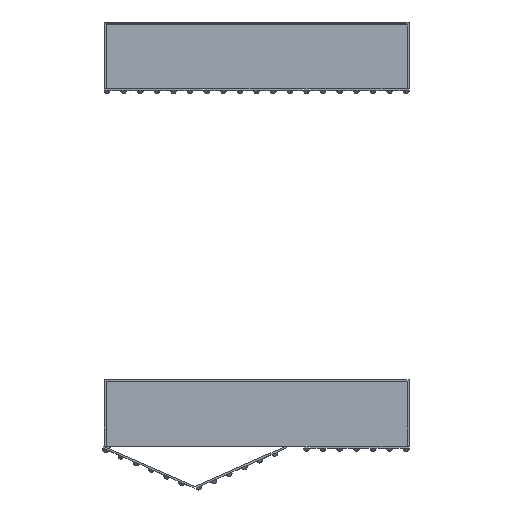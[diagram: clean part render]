
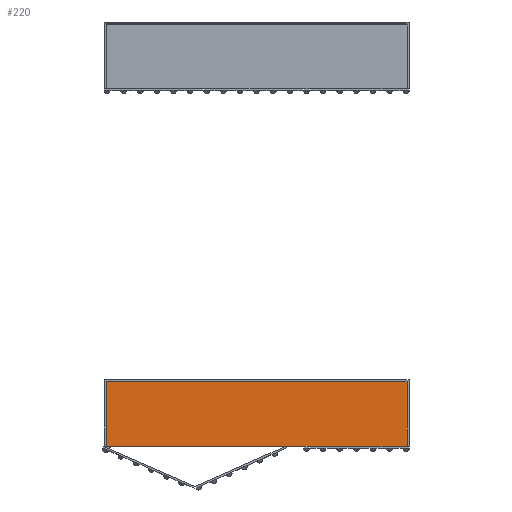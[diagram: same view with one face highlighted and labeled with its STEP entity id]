
A CAD part, top view. The second image highlights one B-rep face of the part: STEP entity #220.
In plain terms, the highlighted planar face has unit normal (0, 0, 1).
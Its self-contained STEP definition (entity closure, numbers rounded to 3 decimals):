
#220=ADVANCED_FACE('',(#648),#5690,.T.);
#648=FACE_OUTER_BOUND('',#1076,.T.);
#1076=EDGE_LOOP('',(#1725,#1726,#1727,#1728));
#1725=ORIENTED_EDGE('',*,*,#3329,.T.);
#1726=ORIENTED_EDGE('',*,*,#3333,.T.);
#1727=ORIENTED_EDGE('',*,*,#3336,.T.);
#1728=ORIENTED_EDGE('',*,*,#3338,.T.);
#3329=EDGE_CURVE('',#5062,#5061,#4497,.T.);
#3333=EDGE_CURVE('',#5061,#5064,#4501,.T.);
#3336=EDGE_CURVE('',#5064,#5066,#4504,.T.);
#3338=EDGE_CURVE('',#5066,#5062,#4506,.T.);
#4497=B_SPLINE_CURVE_WITH_KNOTS('',1,(#7679,#7680),.UNSPECIFIED.,.F.,.F.,
(2,2),(1.2,242.3),.UNSPECIFIED.);
#4501=B_SPLINE_CURVE_WITH_KNOTS('',1,(#7687,#7688),.UNSPECIFIED.,.F.,.F.,
(2,2),(242.3,281.1),.UNSPECIFIED.);
#4504=B_SPLINE_CURVE_WITH_KNOTS('',1,(#7693,#7694),.UNSPECIFIED.,.F.,.F.,
(2,2),(281.1,522.2),.UNSPECIFIED.);
#4506=B_SPLINE_CURVE_WITH_KNOTS('',1,(#7697,#7698),.UNSPECIFIED.,.F.,.F.,
(2,2),(522.2,561.),.UNSPECIFIED.);
#5061=VERTEX_POINT('',#7669);
#5062=VERTEX_POINT('',#7670);
#5064=VERTEX_POINT('',#7672);
#5066=VERTEX_POINT('',#7674);
#5690=PLANE('',#6008);
#6008=AXIS2_PLACEMENT_3D('',#7666,#6311,$);
#6311=DIRECTION('',(0.,0.,1.));
#7666=CARTESIAN_POINT('',(1213.918,-3165.226,52.));
#7669=CARTESIAN_POINT('',(1395.018,-3165.226,52.));
#7670=CARTESIAN_POINT('',(1213.918,-3165.226,52.));
#7672=CARTESIAN_POINT('',(1395.018,-3126.626,52.));
#7674=CARTESIAN_POINT('',(1213.918,-3126.626,52.));
#7679=CARTESIAN_POINT('',(1213.918,-3165.226,52.));
#7680=CARTESIAN_POINT('',(1395.018,-3165.226,52.));
#7687=CARTESIAN_POINT('',(1395.018,-3165.226,52.));
#7688=CARTESIAN_POINT('',(1395.018,-3126.626,52.));
#7693=CARTESIAN_POINT('',(1395.018,-3126.626,52.));
#7694=CARTESIAN_POINT('',(1213.918,-3126.626,52.));
#7697=CARTESIAN_POINT('',(1213.918,-3126.626,52.));
#7698=CARTESIAN_POINT('',(1213.918,-3165.226,52.));
